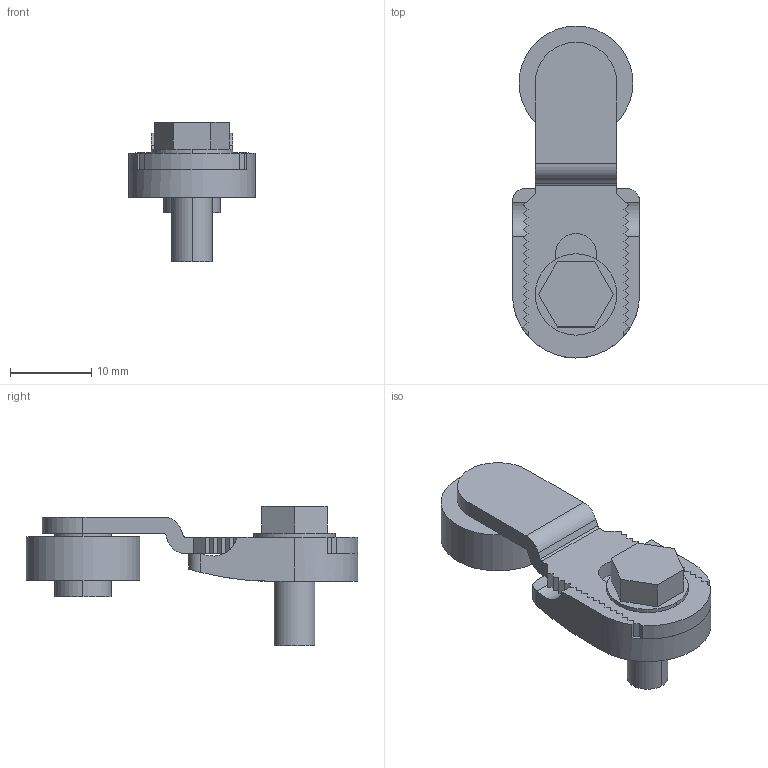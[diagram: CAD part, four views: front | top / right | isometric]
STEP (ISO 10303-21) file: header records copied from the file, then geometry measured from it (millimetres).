
FILE_DESCRIPTION (( 'STEP AP203' ), '1' );
FILE_NAME ('ZF_STEP_VN_A00KC.STEP', '2024-03-05T09:38:23', ( '' ), ( '' ), 'SwSTEP 2.0', 'SolidWorks 2023', '' );
FILE_SCHEMA (( 'CONFIG_CONTROL_DESIGN' ));
Length unit declared in the file: millimetre
Products named in the file (5): Pizzato_vite; Pizzato_rosetta_6606_Schiacciata; Pizzato_Supporto_leve_6325; Pizzato_VN_A00KC; ZF_STEP_VN_A00KC
Assembly tree (4 placements, depth 2):
  ZF_STEP_VN_A00KC
    Pizzato_Supporto_leve_6325
    Pizzato_rosetta_6606_Schiacciata
    Pizzato_vite
    Pizzato_VN_A00KC
Bounding box: 15.6 x 40.8 x 17.1 mm (x, y, z)
Volume: 2908.1 mm3; surface area: 3081.2 mm2
Topology: 4 solids, 4 shells, 337 faces, 975 edges, 650 vertices
Faces by surface type: plane 225, cylinder 112
Entity records: 11848 total; most frequent: CARTESIAN_POINT 2383, ORIENTED_EDGE 1950, DIRECTION 1803, EDGE_CURVE 975, VECTOR 715, LINE 715, VERTEX_POINT 650, AXIS2_PLACEMENT_3D 544
